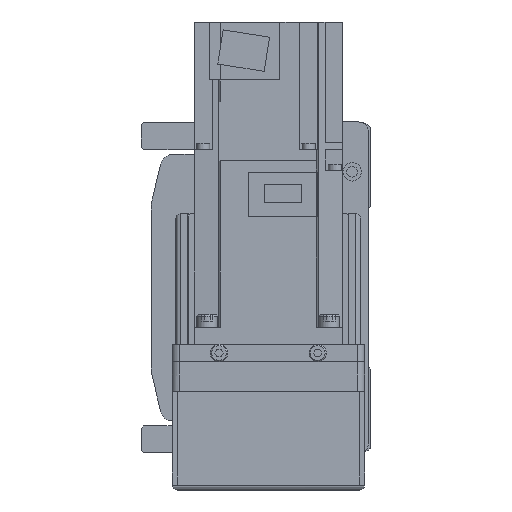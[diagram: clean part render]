
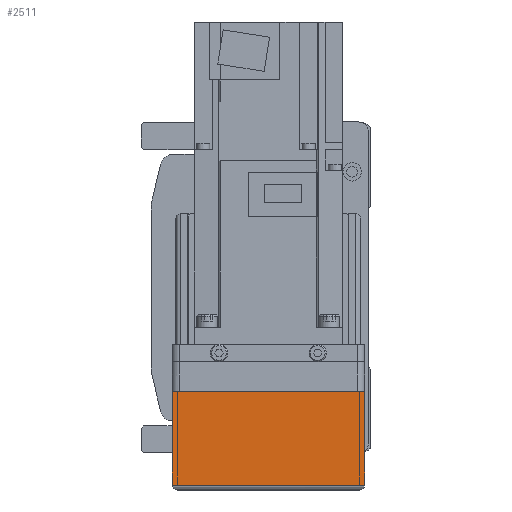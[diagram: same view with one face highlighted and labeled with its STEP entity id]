
A CAD part, left-side view. The second image highlights one B-rep face of the part: STEP entity #2511.
In plain terms, the highlighted planar face has unit normal (-1, 0, 0).
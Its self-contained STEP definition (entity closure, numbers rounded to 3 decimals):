
#2511 = ADVANCED_FACE( '', ( #5482 ), #5483, .F. );
#5482 = FACE_OUTER_BOUND( '', #8862, .T. );
#5483 = PLANE( '', #8863 );
#8862 = EDGE_LOOP( '', ( #16009, #16010, #16011, #16012 ) );
#8863 = AXIS2_PLACEMENT_3D( '', #16013, #16014, #16015 );
#16009 = ORIENTED_EDGE( '', *, *, #21331, .F. );
#16010 = ORIENTED_EDGE( '', *, *, #22023, .F. );
#16011 = ORIENTED_EDGE( '', *, *, #19710, .T. );
#16012 = ORIENTED_EDGE( '', *, *, #21302, .F. );
#16013 = CARTESIAN_POINT( '', ( -158., 36., 7. ) );
#16014 = DIRECTION( '', ( 1., 0., 0. ) );
#16015 = DIRECTION( '', ( 0., 0., -1. ) );
#19710 = EDGE_CURVE( '', #23411, #23685, #23687, .T. );
#21302 = EDGE_CURVE( '', #23725, #23685, #26244, .T. );
#21331 = EDGE_CURVE( '', #25221, #23725, #26281, .T. );
#22023 = EDGE_CURVE( '', #23411, #25221, #27200, .T. );
#23411 = VERTEX_POINT( '', #29040 );
#23685 = VERTEX_POINT( '', #29449 );
#23687 = LINE( '', #29451, #29452 );
#23725 = VERTEX_POINT( '', #29505 );
#25221 = VERTEX_POINT( '', #31652 );
#26244 = LINE( '', #33096, #33097 );
#26281 = LINE( '', #33185, #33186 );
#27200 = LINE( '', #34686, #34687 );
#29040 = CARTESIAN_POINT( '', ( -158., 39., -50. ) );
#29449 = CARTESIAN_POINT( '', ( -158., -39., -50. ) );
#29451 = CARTESIAN_POINT( '', ( -158., 40., -50. ) );
#29452 = VECTOR( '', #36493, 1000. );
#29505 = CARTESIAN_POINT( '', ( -158., -39., -12.1 ) );
#31652 = CARTESIAN_POINT( '', ( -158., 39., -12.1 ) );
#33096 = CARTESIAN_POINT( '', ( -158., -39., -12.1 ) );
#33097 = VECTOR( '', #38584, 1000. );
#33185 = CARTESIAN_POINT( '', ( -158., 50., -12.1 ) );
#33186 = VECTOR( '', #38613, 1000. );
#34686 = CARTESIAN_POINT( '', ( -158., 39., -50. ) );
#34687 = VECTOR( '', #39360, 1000. );
#36493 = DIRECTION( '', ( 0., -1., 0. ) );
#38584 = DIRECTION( '', ( 0., 0., -1. ) );
#38613 = DIRECTION( '', ( 0., -1., 0. ) );
#39360 = DIRECTION( '', ( 0., 0., 1. ) );
